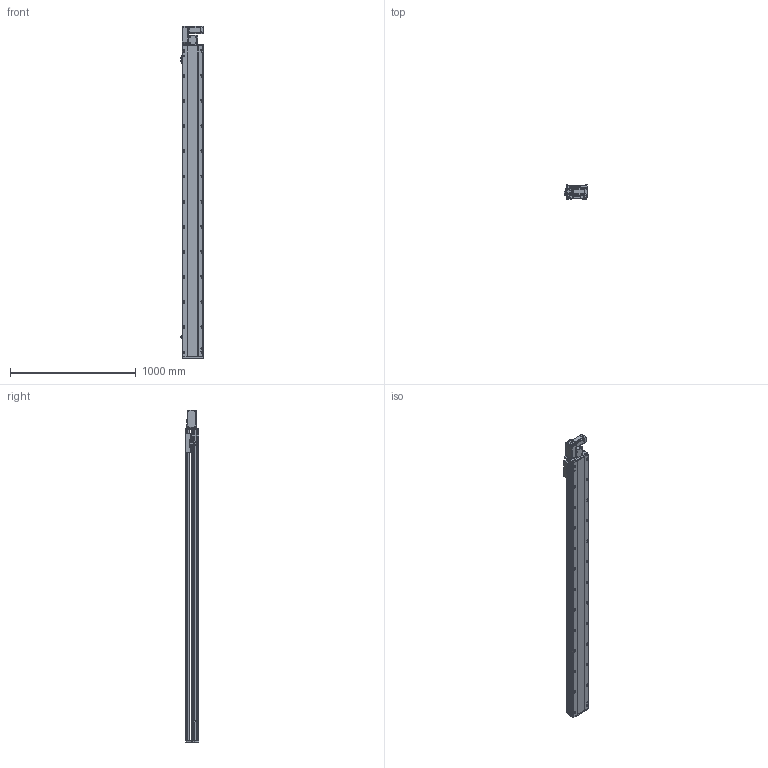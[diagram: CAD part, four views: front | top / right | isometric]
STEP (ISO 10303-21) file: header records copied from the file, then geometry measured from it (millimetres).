
FILE_DESCRIPTION (( 'STEP AP214' ), '1' );
FILE_NAME ('RTB17S-XX-2200-L-M40-C4.STEP', '2025-12-11T05:52:39', ( '' ), ( '' ), 'SwSTEP 2.0', 'SolidWorks 2018', '' );
FILE_SCHEMA (( 'AUTOMOTIVE_DESIGN' ));
Length unit declared in the file: millimetre
Products named in the file (14): RTH13-BL-012感应片外置^RTB17S-XX-XX-L-M40-C4（方程式）; RMP17S-L-014-T20--皮带座^RTB17S-L-皮带座装配-400W_RTB17S-XX-XX-L-M40-C4（方程式）; RTB17S-L-004丝杆螺母连接座^RTB17S-XX-XX-L-M40-C4（方程式）; OMRON EE-SX672 传感器^RTB17S-XX-XX-L-M40-C4（方程式）; RTB17-R-011底座^RTB17S-XX-XX-L-M40-C4（方程式）; RTB17S-L-001侧面板^RTB17S-XX-XX-L-M40-C4（方程式）; RTB14-L-018P^RTB17S-L-皮带座装配-400W_RTB17S-XX-XX-L-M40-C4（方程式）; RTB14-L-005P--轴承塑胶压盖^RTB17S-L-皮带座装配-400W_RTB17S-XX-XX-L-M40-C4（方程式）; RTB14-L-008-M20--电机板^RTB17S-L-皮带座装配-400W_RTB17S-XX-XX-L-M40-C4（方程式）; 400W伺服电机^RTB17S-XX-XX-L-M40-C4（方程式）; RTB14-L-017P^RTB17S-L-皮带座装配-400W_RTB17S-XX-XX-L-M40-C4（方程式）; RTB17S-L-皮带座装配-400W^RTB17S-XX-XX-L-M40-C4（方程式）; RTB17S-L-007上盖^RTB17S-XX-XX-L-M40-C4（方程式）; RTB17S-XX-2200-L-M40-C4
Assembly tree (16 placements, depth 3):
  RTB17S-XX-2200-L-M40-C4
    RTB17-R-011底座^RTB17S-XX-XX-L-M40-C4（方程式）
    RTB17S-L-007上盖^RTB17S-XX-XX-L-M40-C4（方程式）
    OMRON EE-SX672 传感器^RTB17S-XX-XX-L-M40-C4（方程式）  x3
    RTB17S-L-001侧面板^RTB17S-XX-XX-L-M40-C4（方程式）
    400W伺服电机^RTB17S-XX-XX-L-M40-C4（方程式）
    RTB17S-L-004丝杆螺母连接座^RTB17S-XX-XX-L-M40-C4（方程式）
    RTH13-BL-012感应片外置^RTB17S-XX-XX-L-M40-C4（方程式）
    RTB17S-L-皮带座装配-400W^RTB17S-XX-XX-L-M40-C4（方程式）
      RMP17S-L-014-T20--皮带座^RTB17S-L-皮带座装配-400W_RTB17S-XX-XX-L-M40-C4（方程式）
      RTB14-L-005P--轴承塑胶压盖^RTB17S-L-皮带座装配-400W_RTB17S-XX-XX-L-M40-C4（方程式）
      RTB14-L-008-M20--电机板^RTB17S-L-皮带座装配-400W_RTB17S-XX-XX-L-M40-C4（方程式）
      RTB14-L-017P^RTB17S-L-皮带座装配-400W_RTB17S-XX-XX-L-M40-C4（方程式）  x2
      RTB14-L-018P^RTB17S-L-皮带座装配-400W_RTB17S-XX-XX-L-M40-C4（方程式）
Bounding box: 186 x 108 x 2641 mm (x, y, z)
Volume: 22162872.7 mm3; surface area: 2564315.2 mm2
Topology: 15 solids, 15 shells, 2301 faces, 6411 edges, 4185 vertices
Faces by surface type: plane 1080, cylinder 773, bspline 301, cone 139, torus 8
Entity records: 67241 total; most frequent: CARTESIAN_POINT 19016, ORIENTED_EDGE 9666, DIRECTION 8936, EDGE_CURVE 4833, VERTEX_POINT 3173, AXIS2_PLACEMENT_3D 3103, VECTOR 2730, LINE 2730
